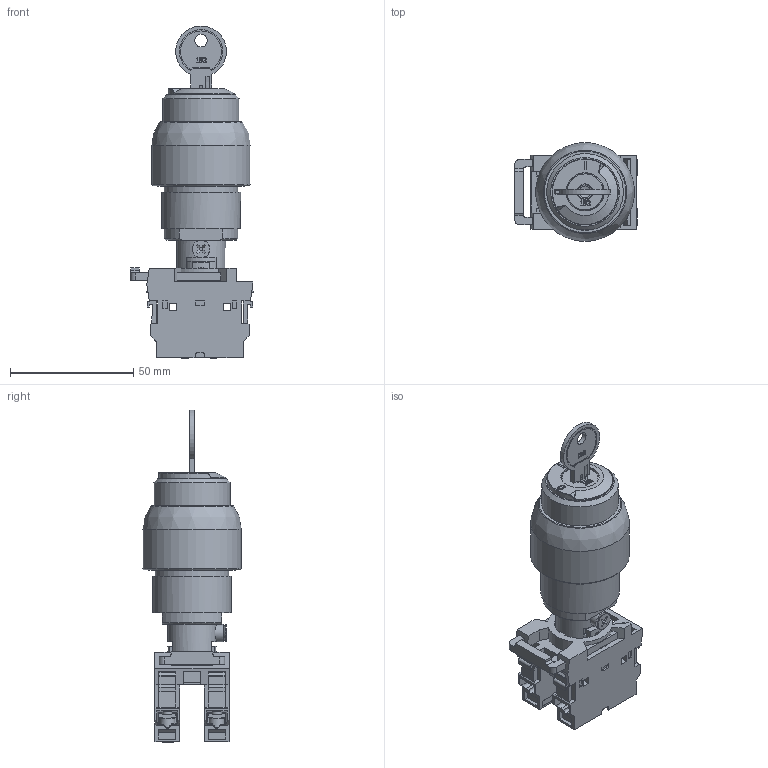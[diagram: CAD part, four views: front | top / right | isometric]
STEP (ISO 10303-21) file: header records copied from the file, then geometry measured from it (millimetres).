
FILE_DESCRIPTION((''),'2;1');
FILE_NAME('\\192.168.5.25\cortem_klient\INVENTOR БАЗА МОДЕЛЕЙ\Актуальная база моделей для отдела продаж\Элементы управления и индикации\ПГВА\ПГВА313_M1.stp','2019-05-22T14:24:41',('L.A.Ronzhin'),(''),'Autodesk Inventor 2012','Autodesk Inventor 2012','');
FILE_SCHEMA(('CONFIG_CONTROL_DESIGN'));
Length unit declared in the file: millimetre
Products named in the file (1): ПГВА313
Bounding box: 49.65 x 39.85 x 134.5 mm (x, y, z)
Volume: 70809.4 mm3; surface area: 50189.8 mm2
Topology: 3 solids, 11 shells, 1679 faces, 4683 edges, 3055 vertices
Faces by surface type: plane 1187, cylinder 246, bspline 161, cone 60, torus 18, sphere 7
Full cylindrical faces by diameter (mm): 1.4 x2, 1.5 x2, 3.242 x1, 3.85 x1, 4 x5, 4.15 x1, 5.1 x1, 5.8 x1, 6.2 x5, 6.4 x1, 6.5 x4, 7 x2, 7.4 x1, 7.9 x1, 7.95 x2, 8 x1, 11.3 x1, 12 x1, 12.3 x1, 12.4 x1, 14.3 x1, 14.6 x1, 14.85 x1, 15.4 x1, 15.45 x1, 15.5 x1, 17.8 x1, 19 x1, 19.8 x1, 25 x1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
Entity records: 57545 total; most frequent: CARTESIAN_POINT 13848, ORIENTED_EDGE 9082, DIRECTION 8103, EDGE_CURVE 4541, VECTOR 3111, LINE 3111, VERTEX_POINT 3007, AXIS2_PLACEMENT_3D 2496
